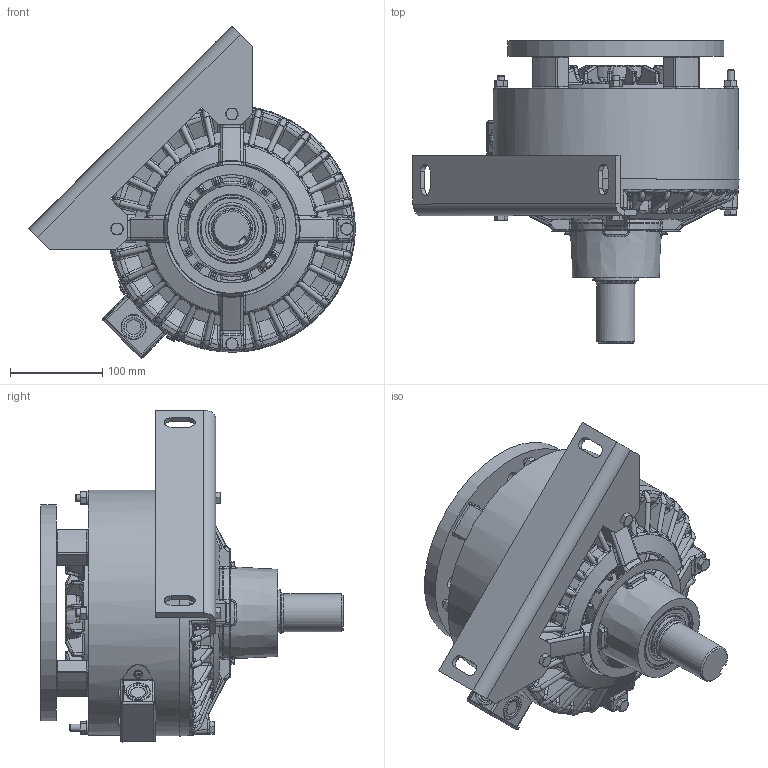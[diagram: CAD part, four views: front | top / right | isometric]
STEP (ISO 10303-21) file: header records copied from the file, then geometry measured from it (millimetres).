
FILE_DESCRIPTION(/* description */ ('STEP AP214'),/* implementation_level */ '2;1');
FILE_NAME(/* name */ '100MC90F22_stp.step',/* time_stamp */ '2026-05-13T13:58:11-05:00',/* author */ (''),/* organization */ (''),/* preprocessor_version */ 'ST-DEVELOPER v20.1',/* originating_system */ 'Autodesk Translation Framework v15.8.0.0',/* authorisation */ '');
FILE_SCHEMA (('AUTOMOTIVE_DESIGN { 1 0 10303 214 3 1 1 }'));
Products named in the file (1): 100MC90F22_asm_stp
Bounding box: 353.58 x 327.95 x 360.04 mm (x, y, z)
Volume: 5520453.6 mm3; surface area: 992423 mm2
Topology: 5 solids, 11 shells, 3334 faces, 8302 edges, 4858 vertices
Faces by surface type: bspline 1094, cylinder 879, plane 735, torus 405, cone 181, sphere 40
Full cylindrical faces by diameter (mm): 3.795 x4, 4.039 x4, 5.105 x2, 6.35 x4, 7.938 x8, 9.474 x4, 9.525 x9, 12.7 x1, 14.287 x4, 17.475 x1, 22.225 x3, 31.75 x1, 41.237 x1, 42.469 x2, 43.663 x1, 45.009 x6, 51 x4, 61.976 x1, 63.5 x1, 66.9 x2, 69 x4, 71.425 x1, 75 x1, 75.006 x1, 82.601 x1, 117.475 x1, 132.588 x2, 139.04 x1, 139.7 x2, 142.062 x2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
Entity records: 146395 total; most frequent: CARTESIAN_POINT 74210, ORIENTED_EDGE 16386, DIRECTION 13907, EDGE_CURVE 8193, AXIS2_PLACEMENT_3D 5793, VERTEX_POINT 4862, EDGE_LOOP 3469, CIRCLE 3396
